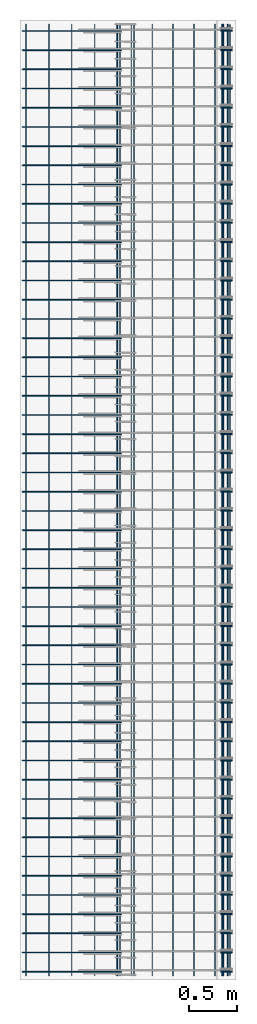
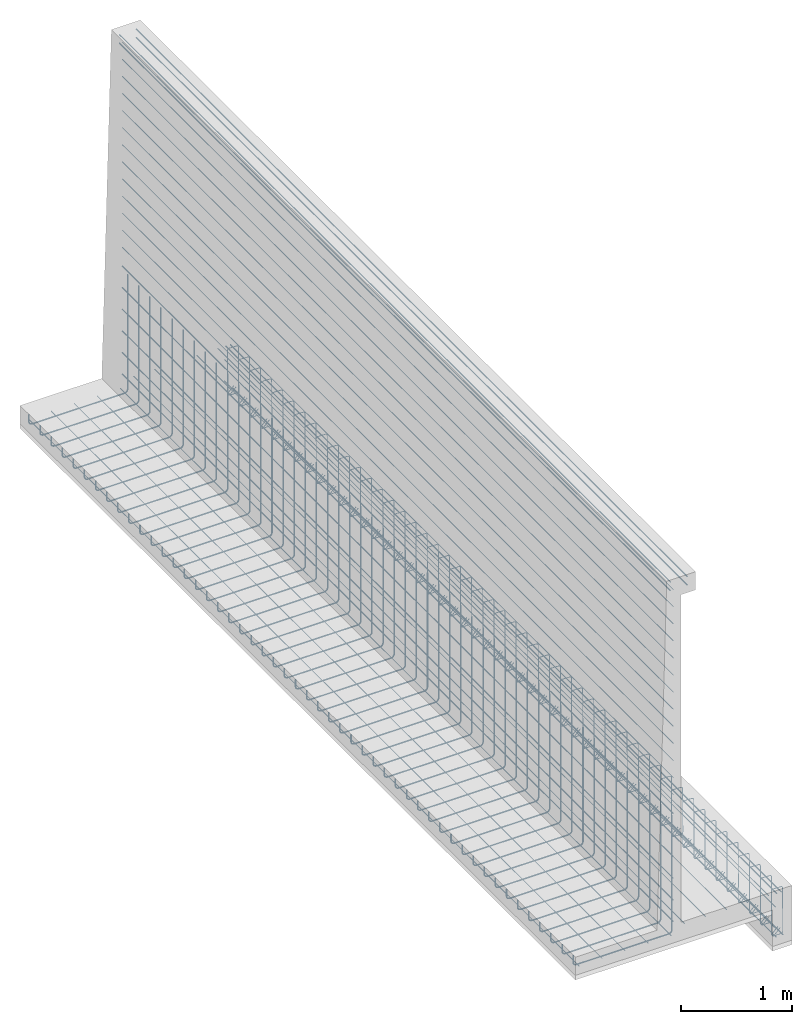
# One storey, part 2 of 4: 5 reinforcing bars.
"""IFC2X3 building model written with IfcOpenShell, lengths in millimetres."""

from ifc_helpers import new_model, entity, si_unit, converted_unit, frame, origin, origin_with_axes, place, context, subcontext, project, spatial, source, transform, mapped, material, element, save


model = new_model("IFC2X3")

# Units and contexts
model_context = context("Model", 3, precision=1e-05, world=origin())
plan_context = context("Plan", 3, precision=1e-05, world=origin())
body_context = subcontext(model_context, "Body", "Model", "MODEL_VIEW")
ifc_project = project(units=[si_unit("LENGTHUNIT", "METRE", prefix="MILLI"), converted_unit("PLANEANGLEUNIT", "DEGREE", entity("IfcPlaneAngleMeasure", 0.0174532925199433), si_unit("PLANEANGLEUNIT", "RADIAN"), dimensions=[0, 0, 0, 0, 0, 0, 0]), si_unit("AREAUNIT", "SQUARE_METRE"), si_unit("VOLUMEUNIT", "CUBIC_METRE")], contexts=[model_context, plan_context])

# Site, building, storey
site_placement = place(None, origin())
site = spatial("IfcSite", under=ifc_project, at=site_placement, Name="Leçon 3 : Ferraillage avancé", CompositionType="ELEMENT")
building_placement = place(site_placement, origin_with_axes())
building = spatial("IfcBuilding", under=site, at=building_placement, Name="01 soutènement", CompositionType="COMPLEX")
storey_placement = place(building_placement, origin_with_axes())
storey = spatial("IfcBuildingStorey", under=building, at=storey_placement, Name="corrigé", CompositionType="ELEMENT")

# Reinforcing bars
ifc_material_1 = material(Name="haute adhérence")
shared_shape_1 = source(origin(), body_context, "Body", "AdvancedSweptSolid", [
    entity("IfcSweptDiskSolid", entity("IfcPolyline", [entity("IfcCartesianPoint", [0.0, 0.0, 0.0]), entity("IfcCartesianPoint", [-56.87697814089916, 0.0, -56.87697814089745]), entity("IfcCartesianPoint", [-58.08204244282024, 0.0, -58.26475208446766]), entity("IfcCartesianPoint", [-59.17595725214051, 0.0, -59.78124254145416]), entity("IfcCartesianPoint", [-60.12346453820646, 0.0, -61.39326700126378]), entity("IfcCartesianPoint", [-60.90399752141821, 0.0, -63.05700947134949]), entity("IfcCartesianPoint", [-61.52852093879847, 0.0, -64.78537321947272]), entity("IfcCartesianPoint", [-61.99840553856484, 0.0, -66.59523547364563]), entity("IfcCartesianPoint", [-62.29721164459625, 0.0, -68.44107073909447]), entity("IfcCartesianPoint", [-62.42640687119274, 0.0, -70.27448424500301]), entity("IfcCartesianPoint", [-62.42640687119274, 9.094947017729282e-13, -71.58223554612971]), entity("IfcCartesianPoint", [-61.93378880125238, 9.094947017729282e-13, -75.12225949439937]), entity("IfcCartesianPoint", [-60.73297037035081, 9.094947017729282e-13, -78.76485298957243]), entity("IfcCartesianPoint", [-58.85890736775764, 9.094947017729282e-13, -82.11124509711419]), entity("IfcCartesianPoint", [-56.56854249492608, 9.094947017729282e-13, -84.85281374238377]), entity("IfcCartesianPoint", [-53.82697384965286, 9.094947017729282e-13, -87.14317861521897]), entity("IfcCartesianPoint", [-50.48058174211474, 9.094947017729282e-13, -89.01724161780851]), entity("IfcCartesianPoint", [-46.83798824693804, 9.094947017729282e-13, -90.21806004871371]), entity("IfcCartesianPoint", [-43.29796429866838, 9.094947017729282e-13, -90.71067811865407]), entity("IfcCartesianPoint", [30.4451505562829, 0.0, -90.71067811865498]), entity("IfcCartesianPoint", [33.98517450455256, 0.003848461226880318, -90.21807508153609]), entity("IfcCartesianPoint", [37.62776799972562, 0.0132295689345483, -89.01729329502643]), entity("IfcCartesianPoint", [40.97416010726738, 0.02787023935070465, -87.14328748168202]), entity("IfcCartesianPoint", [43.71572875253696, 0.04576316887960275, -84.85299250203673]), entity("IfcCartesianPoint", [46.00609362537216, 0.06718102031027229, -82.11150751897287]), entity("IfcCartesianPoint", [47.8801566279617, 0.0933239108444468, -78.76521753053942]), entity("IfcCartesianPoint", [49.0809750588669, 0.1217808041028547, -75.12273519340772]), entity("IfcCartesianPoint", [49.57359312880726, 0.1494363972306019, -71.58281927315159]), entity("IfcCartesianPoint", [49.57359312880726, 3.85060595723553, 402.1668844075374]), entity("IfcCartesianPoint", [49.08145215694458, 3.895832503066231, 405.7060949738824]), entity("IfcCartesianPoint", [47.8818275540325, 3.967125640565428, 409.3476183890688]), entity("IfcCartesianPoint", [46.00962064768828, 4.060125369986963, 412.6929236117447]), entity("IfcCartesianPoint", [43.7214310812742, 4.16325801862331, 415.4336074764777]), entity("IfcCartesianPoint", [40.98240984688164, 4.278967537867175, 417.7231860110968]), entity("IfcCartesianPoint", [37.63913404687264, 4.413005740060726, 419.5965293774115]), entity("IfcCartesianPoint", [33.99981975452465, 4.552359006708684, 420.7968821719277]), entity("IfcCartesianPoint", [30.46275624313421, 4.682529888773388, 421.2893218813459]), entity("IfcCartesianPoint", [-43.31015190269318, 7.317276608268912, 421.289321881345]), entity("IfcCartesianPoint", [-46.84792034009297, 7.443625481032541, 420.7967038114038]), entity("IfcCartesianPoint", [-50.488192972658, 7.573635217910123, 419.5958853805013]), entity("IfcCartesianPoint", [-53.83245294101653, 7.693073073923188, 417.7218223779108]), entity("IfcCartesianPoint", [-56.57227480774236, 7.790923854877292, 415.4314575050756]), entity("IfcCartesianPoint", [-58.86118038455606, 7.872670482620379, 412.6898888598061]), entity("IfcCartesianPoint", [-60.73404933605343, 7.93955865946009, 409.3434967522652]), entity("IfcCartesianPoint", [-61.93410267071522, 7.982417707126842, 405.7009032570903]), entity("IfcCartesianPoint", [-62.42640687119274, 8.00000000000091, 402.1608793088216]), entity("IfcCartesianPoint", [-62.42640687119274, 8.00000000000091, -71.58223554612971]), entity("IfcCartesianPoint", [-61.93378880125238, 8.00000000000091, -75.12225949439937]), entity("IfcCartesianPoint", [-60.73297037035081, 8.00000000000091, -78.76485298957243]), entity("IfcCartesianPoint", [-58.85890736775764, 8.00000000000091, -82.11124509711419]), entity("IfcCartesianPoint", [-56.56854249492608, 8.00000000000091, -84.85281374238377]), entity("IfcCartesianPoint", [-53.82697384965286, 8.00000000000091, -87.14317861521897]), entity("IfcCartesianPoint", [-50.48058174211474, 8.00000000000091, -89.01724161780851]), entity("IfcCartesianPoint", [-46.83798824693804, 8.00000000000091, -90.21806004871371]), entity("IfcCartesianPoint", [-43.29796429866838, 8.00000000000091, -90.71067811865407]), entity("IfcCartesianPoint", [-41.99021299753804, 8.00000000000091, -90.71067811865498]), entity("IfcCartesianPoint", [-40.1567994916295, 8.00000000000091, -90.58148289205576]), entity("IfcCartesianPoint", [-38.31096422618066, 8.00000000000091, -90.28267678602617]), entity("IfcCartesianPoint", [-36.50110197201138, 8.00000000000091, -89.81279218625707]), entity("IfcCartesianPoint", [-34.77273822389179, 8.00000000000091, -89.18826876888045]), entity("IfcCartesianPoint", [-33.10899575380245, 8.00000000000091, -88.40773578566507]), entity("IfcCartesianPoint", [-31.49697129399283, 8.00000000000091, -87.4602284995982]), entity("IfcCartesianPoint", [-29.98048083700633, 8.00000000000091, -86.36631369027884]), entity("IfcCartesianPoint", [-28.59270689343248, 8.00000000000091, -85.16124938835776]), entity("IfcCartesianPoint", [28.28427124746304, 8.0, -28.28427124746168])]), 4.0, None, 0.0, 1.0),
])
reinforcing_bar_1_placement = place(storey_placement, frame((-19074.08486680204, 6810.40333267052, -265.2893218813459), z_axis=(0.0, 0.0, 1.0), x_axis=(1.0, 0.0, 0.0)))
element("IfcReinforcingBar", 1, at=reinforcing_bar_1_placement, inside=storey, material=ifc_material_1, BarRole="NOTDEFINED", CrossSectionArea=0.503, NominalDiameter=8.0, context=body_context, shape_type="MappedRepresentation", body=[
    mapped(shared_shape_1, transform((0.0, 0.0, 0.0), x_axis=(1.0, 0.0, 0.0), y_axis=(0.0, 1.0, 0.0), z_axis=(0.0, 0.0, 1.0))),
    mapped(shared_shape_1, transform((0.0, 200.0, 0.0), x_axis=(1.0, 0.0, 0.0), y_axis=(0.0, 1.0, 0.0), z_axis=(0.0, 0.0, 1.0))),
    mapped(shared_shape_1, transform((0.0, 400.0, 0.0), x_axis=(1.0, 0.0, 0.0), y_axis=(0.0, 1.0, 0.0), z_axis=(0.0, 0.0, 1.0))),
    mapped(shared_shape_1, transform((0.0, 600.0, 0.0), x_axis=(1.0, 0.0, 0.0), y_axis=(0.0, 1.0, 0.0), z_axis=(0.0, 0.0, 1.0))),
    mapped(shared_shape_1, transform((0.0, 800.0, 0.0), x_axis=(1.0, 0.0, 0.0), y_axis=(0.0, 1.0, 0.0), z_axis=(0.0, 0.0, 1.0))),
    mapped(shared_shape_1, transform((0.0, 1000.0, 0.0), x_axis=(1.0, 0.0, 0.0), y_axis=(0.0, 1.0, 0.0), z_axis=(0.0, 0.0, 1.0))),
    mapped(shared_shape_1, transform((0.0, 1200.0, 0.0), x_axis=(1.0, 0.0, 0.0), y_axis=(0.0, 1.0, 0.0), z_axis=(0.0, 0.0, 1.0))),
    mapped(shared_shape_1, transform((0.0, 1400.000000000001, 0.0), x_axis=(1.0, 0.0, 0.0), y_axis=(0.0, 1.0, 0.0), z_axis=(0.0, 0.0, 1.0))),
    mapped(shared_shape_1, transform((0.0, 1600.000000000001, 0.0), x_axis=(1.0, 0.0, 0.0), y_axis=(0.0, 1.0, 0.0), z_axis=(0.0, 0.0, 1.0))),
    mapped(shared_shape_1, transform((0.0, 1800.000000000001, 0.0), x_axis=(1.0, 0.0, 0.0), y_axis=(0.0, 1.0, 0.0), z_axis=(0.0, 0.0, 1.0))),
    mapped(shared_shape_1, transform((0.0, 2000.000000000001, 0.0), x_axis=(1.0, 0.0, 0.0), y_axis=(0.0, 1.0, 0.0), z_axis=(0.0, 0.0, 1.0))),
    mapped(shared_shape_1, transform((0.0, 2200.000000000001, 0.0), x_axis=(1.0, 0.0, 0.0), y_axis=(0.0, 1.0, 0.0), z_axis=(0.0, 0.0, 1.0))),
    mapped(shared_shape_1, transform((0.0, 2400.000000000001, 0.0), x_axis=(1.0, 0.0, 0.0), y_axis=(0.0, 1.0, 0.0), z_axis=(0.0, 0.0, 1.0))),
    mapped(shared_shape_1, transform((0.0, 2600.000000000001, 0.0), x_axis=(1.0, 0.0, 0.0), y_axis=(0.0, 1.0, 0.0), z_axis=(0.0, 0.0, 1.0))),
    mapped(shared_shape_1, transform((0.0, 2800.000000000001, 0.0), x_axis=(1.0, 0.0, 0.0), y_axis=(0.0, 1.0, 0.0), z_axis=(0.0, 0.0, 1.0))),
    mapped(shared_shape_1, transform((0.0, 3000.000000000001, 0.0), x_axis=(1.0, 0.0, 0.0), y_axis=(0.0, 1.0, 0.0), z_axis=(0.0, 0.0, 1.0))),
    mapped(shared_shape_1, transform((0.0, 3200.000000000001, 0.0), x_axis=(1.0, 0.0, 0.0), y_axis=(0.0, 1.0, 0.0), z_axis=(0.0, 0.0, 1.0))),
    mapped(shared_shape_1, transform((0.0, 3400.000000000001, 0.0), x_axis=(1.0, 0.0, 0.0), y_axis=(0.0, 1.0, 0.0), z_axis=(0.0, 0.0, 1.0))),
    mapped(shared_shape_1, transform((0.0, 3600.000000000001, 0.0), x_axis=(1.0, 0.0, 0.0), y_axis=(0.0, 1.0, 0.0), z_axis=(0.0, 0.0, 1.0))),
    mapped(shared_shape_1, transform((0.0, 3800.000000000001, 0.0), x_axis=(1.0, 0.0, 0.0), y_axis=(0.0, 1.0, 0.0), z_axis=(0.0, 0.0, 1.0))),
    mapped(shared_shape_1, transform((0.0, 4000.000000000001, 0.0), x_axis=(1.0, 0.0, 0.0), y_axis=(0.0, 1.0, 0.0), z_axis=(0.0, 0.0, 1.0))),
    mapped(shared_shape_1, transform((0.0, 4200.000000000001, 0.0), x_axis=(1.0, 0.0, 0.0), y_axis=(0.0, 1.0, 0.0), z_axis=(0.0, 0.0, 1.0))),
    mapped(shared_shape_1, transform((0.0, 4400.000000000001, 0.0), x_axis=(1.0, 0.0, 0.0), y_axis=(0.0, 1.0, 0.0), z_axis=(0.0, 0.0, 1.0))),
    mapped(shared_shape_1, transform((0.0, 4600.000000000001, 0.0), x_axis=(1.0, 0.0, 0.0), y_axis=(0.0, 1.0, 0.0), z_axis=(0.0, 0.0, 1.0))),
    mapped(shared_shape_1, transform((0.0, 4800.000000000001, 0.0), x_axis=(1.0, 0.0, 0.0), y_axis=(0.0, 1.0, 0.0), z_axis=(0.0, 0.0, 1.0))),
    mapped(shared_shape_1, transform((0.0, 5000.000000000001, 0.0), x_axis=(1.0, 0.0, 0.0), y_axis=(0.0, 1.0, 0.0), z_axis=(0.0, 0.0, 1.0))),
    mapped(shared_shape_1, transform((0.0, 5200.000000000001, 0.0), x_axis=(1.0, 0.0, 0.0), y_axis=(0.0, 1.0, 0.0), z_axis=(0.0, 0.0, 1.0))),
    mapped(shared_shape_1, transform((0.0, 5400.000000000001, 0.0), x_axis=(1.0, 0.0, 0.0), y_axis=(0.0, 1.0, 0.0), z_axis=(0.0, 0.0, 1.0))),
    mapped(shared_shape_1, transform((0.0, 5600.000000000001, 0.0), x_axis=(1.0, 0.0, 0.0), y_axis=(0.0, 1.0, 0.0), z_axis=(0.0, 0.0, 1.0))),
    mapped(shared_shape_1, transform((0.0, 5800.000000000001, 0.0), x_axis=(1.0, 0.0, 0.0), y_axis=(0.0, 1.0, 0.0), z_axis=(0.0, 0.0, 1.0))),
    mapped(shared_shape_1, transform((0.0, 6000.000000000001, 0.0), x_axis=(1.0, 0.0, 0.0), y_axis=(0.0, 1.0, 0.0), z_axis=(0.0, 0.0, 1.0))),
    mapped(shared_shape_1, transform((0.0, 6200.000000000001, 0.0), x_axis=(1.0, 0.0, 0.0), y_axis=(0.0, 1.0, 0.0), z_axis=(0.0, 0.0, 1.0))),
    mapped(shared_shape_1, transform((0.0, 6400.000000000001, 0.0), x_axis=(1.0, 0.0, 0.0), y_axis=(0.0, 1.0, 0.0), z_axis=(0.0, 0.0, 1.0))),
    mapped(shared_shape_1, transform((0.0, 6600.000000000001, 0.0), x_axis=(1.0, 0.0, 0.0), y_axis=(0.0, 1.0, 0.0), z_axis=(0.0, 0.0, 1.0))),
    mapped(shared_shape_1, transform((0.0, 6800.000000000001, 0.0), x_axis=(1.0, 0.0, 0.0), y_axis=(0.0, 1.0, 0.0), z_axis=(0.0, 0.0, 1.0))),
    mapped(shared_shape_1, transform((0.0, 7000.000000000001, 0.0), x_axis=(1.0, 0.0, 0.0), y_axis=(0.0, 1.0, 0.0), z_axis=(0.0, 0.0, 1.0))),
    mapped(shared_shape_1, transform((0.0, 7200.000000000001, 0.0), x_axis=(1.0, 0.0, 0.0), y_axis=(0.0, 1.0, 0.0), z_axis=(0.0, 0.0, 1.0))),
    mapped(shared_shape_1, transform((0.0, 7400.000000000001, 0.0), x_axis=(1.0, 0.0, 0.0), y_axis=(0.0, 1.0, 0.0), z_axis=(0.0, 0.0, 1.0))),
    mapped(shared_shape_1, transform((0.0, 7600.000000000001, 0.0), x_axis=(1.0, 0.0, 0.0), y_axis=(0.0, 1.0, 0.0), z_axis=(0.0, 0.0, 1.0))),
    mapped(shared_shape_1, transform((0.0, 7800.000000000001, 0.0), x_axis=(1.0, 0.0, 0.0), y_axis=(0.0, 1.0, 0.0), z_axis=(0.0, 0.0, 1.0))),
    mapped(shared_shape_1, transform((0.0, 8000.000000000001, 0.0), x_axis=(1.0, 0.0, 0.0), y_axis=(0.0, 1.0, 0.0), z_axis=(0.0, 0.0, 1.0))),
    mapped(shared_shape_1, transform((0.0, 8200.0, 0.0), x_axis=(1.0, 0.0, 0.0), y_axis=(0.0, 1.0, 0.0), z_axis=(0.0, 0.0, 1.0))),
    mapped(shared_shape_1, transform((0.0, 8400.0, 0.0), x_axis=(1.0, 0.0, 0.0), y_axis=(0.0, 1.0, 0.0), z_axis=(0.0, 0.0, 1.0))),
    mapped(shared_shape_1, transform((0.0, 8600.0, 0.0), x_axis=(1.0, 0.0, 0.0), y_axis=(0.0, 1.0, 0.0), z_axis=(0.0, 0.0, 1.0))),
    mapped(shared_shape_1, transform((0.0, 8800.0, 0.0), x_axis=(1.0, 0.0, 0.0), y_axis=(0.0, 1.0, 0.0), z_axis=(0.0, 0.0, 1.0))),
    mapped(shared_shape_1, transform((0.0, 9000.0, 0.0), x_axis=(1.0, 0.0, 0.0), y_axis=(0.0, 1.0, 0.0), z_axis=(0.0, 0.0, 1.0))),
    mapped(shared_shape_1, transform((0.0, 9200.0, 0.0), x_axis=(1.0, 0.0, 0.0), y_axis=(0.0, 1.0, 0.0), z_axis=(0.0, 0.0, 1.0))),
    mapped(shared_shape_1, transform((0.0, 9400.0, 0.0), x_axis=(1.0, 0.0, 0.0), y_axis=(0.0, 1.0, 0.0), z_axis=(0.0, 0.0, 1.0))),
    mapped(shared_shape_1, transform((0.0, 9600.0, 0.0), x_axis=(1.0, 0.0, 0.0), y_axis=(0.0, 1.0, 0.0), z_axis=(0.0, 0.0, 1.0))),
    mapped(shared_shape_1, transform((0.0, 9800.0, 0.0), x_axis=(1.0, 0.0, 0.0), y_axis=(0.0, 1.0, 0.0), z_axis=(0.0, 0.0, 1.0))),
])
ifc_material_2 = material(Name="haute adhérence")
shared_shape_2 = source(origin(), body_context, "Body", "AdvancedSweptSolid", [
    entity("IfcSweptDiskSolid", entity("IfcPolyline", [entity("IfcCartesianPoint", [0.0, 0.0, 0.0]), entity("IfcCartesianPoint", [-3.637978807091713e-12, 9904.0, 0.0])]), 6.0, None, 0.0, 1.0),
])
reinforcing_bar_2_placement = place(storey_placement, frame((-19116.51127365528, 6773.40333267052, -345.9999999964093), z_axis=(0.0, 0.0, 1.0), x_axis=(1.0, 0.0, 0.0)))
element("IfcReinforcingBar", 2, at=reinforcing_bar_2_placement, inside=storey, material=ifc_material_2, BarRole="NOTDEFINED", CrossSectionArea=0.503, NominalDiameter=12.0, context=body_context, shape_type="MappedRepresentation", body=[
    mapped(shared_shape_2, transform((0.0, 0.0, 0.0), x_axis=(1.0, 0.0, 0.0), y_axis=(0.0, 1.0, 0.0), z_axis=(0.0, 0.0, 1.0))),
    mapped(shared_shape_2, transform((72.0, 0.0, 4.307730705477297e-08), x_axis=(1.0, 0.0, 0.0), y_axis=(0.0, 1.0, 0.0), z_axis=(0.0, 0.0, 1.0))),
])
ifc_material_3 = material(Name="haute adhérence")
shared_shape_3 = source(origin(), body_context, "Body", "AdvancedSweptSolid", [
    entity("IfcSweptDiskSolid", entity("IfcPolyline", [entity("IfcCartesianPoint", [0.0, 0.0, 0.0]), entity("IfcCartesianPoint", [-3.637978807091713e-12, 9919.999999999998, 0.0])]), 6.0, None, 0.0, 1.0),
])
reinforcing_bar_3_placement = place(storey_placement, frame((-20044.51127372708, 6765.403332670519, 3946.000000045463), z_axis=(0.0, 0.0, 1.0), x_axis=(1.0, 0.0, 0.0)))
element("IfcReinforcingBar", 3, at=reinforcing_bar_3_placement, inside=storey, material=ifc_material_3, BarRole="NOTDEFINED", CrossSectionArea=0.503, NominalDiameter=12.0, context=body_context, shape_type="MappedRepresentation", body=[
    mapped(shared_shape_3, transform((0.0, 0.0, 0.0), x_axis=(1.0, 0.0, 0.0), y_axis=(0.0, 1.0, 0.0), z_axis=(0.0, 0.0, 1.0))),
    mapped(shared_shape_3, transform((-173.5062361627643, 0.0, -1.38576069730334e-07), x_axis=(1.0, 0.0, 0.0), y_axis=(0.0, 1.0, 0.0), z_axis=(0.0, 0.0, 1.0))),
    mapped(shared_shape_3, transform((-175.7167624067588, 0.0, -92.00000004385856), x_axis=(1.0, 0.0, 0.0), y_axis=(0.0, 1.0, 0.0), z_axis=(0.0, 0.0, 1.0))),
    mapped(shared_shape_3, transform((7.179914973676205e-08, 0.0, -91.99999999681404), x_axis=(1.0, 0.0, 0.0), y_axis=(0.0, 1.0, 0.0), z_axis=(0.0, 0.0, 1.0))),
    mapped(shared_shape_3, transform((-145.9999999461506, 0.0, -3739.999999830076), x_axis=(1.0, 0.0, 0.0), y_axis=(0.0, 1.0, 0.0), z_axis=(0.0, 0.0, 1.0))),
    mapped(shared_shape_3, transform((-145.9999999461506, 0.0, -3502.399999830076), x_axis=(1.0, 0.0, 0.0), y_axis=(0.0, 1.0, 0.0), z_axis=(0.0, 0.0, 1.0))),
    mapped(shared_shape_3, transform((-145.9999999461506, 0.0, -3264.799999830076), x_axis=(1.0, 0.0, 0.0), y_axis=(0.0, 1.0, 0.0), z_axis=(0.0, 0.0, 1.0))),
    mapped(shared_shape_3, transform((-145.9999999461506, 0.0, -3027.199999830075), x_axis=(1.0, 0.0, 0.0), y_axis=(0.0, 1.0, 0.0), z_axis=(0.0, 0.0, 1.0))),
    mapped(shared_shape_3, transform((-145.9999999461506, 0.0, -2789.599999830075), x_axis=(1.0, 0.0, 0.0), y_axis=(0.0, 1.0, 0.0), z_axis=(0.0, 0.0, 1.0))),
    mapped(shared_shape_3, transform((-145.9999999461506, 0.0, -2551.999999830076), x_axis=(1.0, 0.0, 0.0), y_axis=(0.0, 1.0, 0.0), z_axis=(0.0, 0.0, 1.0))),
    mapped(shared_shape_3, transform((930.4976074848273, 0.0, -3809.404641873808), x_axis=(1.0, 0.0, 0.0), y_axis=(0.0, 1.0, 0.0), z_axis=(0.0, 0.0, 1.0))),
    mapped(shared_shape_3, transform((978.4976074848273, 0.0, -3809.404641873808), x_axis=(1.0, 0.0, 0.0), y_axis=(0.0, 1.0, 0.0), z_axis=(0.0, 0.0, 1.0))),
])
ifc_material_4 = material(Name="haute adhérence")
shared_shape_4 = source(origin(), body_context, "Body", "AdvancedSweptSolid", [
    entity("IfcSweptDiskSolid", entity("IfcPolyline", [entity("IfcCartesianPoint", [0.0, 0.0, 0.0]), entity("IfcCartesianPoint", [-3.637978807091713e-12, 9920.0, 1.222133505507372e-12])]), 4.0, None, 0.0, 1.0),
])
reinforcing_bar_4_placement = place(storey_placement, frame((-20072.51127377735, 6765.403332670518, 142.0), z_axis=(0.0, 0.0, 1.0), x_axis=(1.0, 0.0, 0.0)))
element("IfcReinforcingBar", 4, at=reinforcing_bar_4_placement, inside=storey, material=ifc_material_4, BarRole="NOTDEFINED", CrossSectionArea=0.503, NominalDiameter=8.0, context=body_context, shape_type="MappedRepresentation", body=[
    mapped(shared_shape_4, transform((0.0, 0.0, 0.0), x_axis=(1.0, 0.0, 0.0), y_axis=(0.0, 1.0, 0.0), z_axis=(0.0, 0.0, 1.0))),
    mapped(shared_shape_4, transform((218.5, 0.0, -4.547473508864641e-13), x_axis=(1.0, 0.0, 0.0), y_axis=(0.0, 1.0, 0.0), z_axis=(0.0, 0.0, 1.0))),
    mapped(shared_shape_4, transform((437.0, 0.0, -9.094947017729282e-13), x_axis=(1.0, 0.0, 0.0), y_axis=(0.0, 1.0, 0.0), z_axis=(0.0, 0.0, 1.0))),
    mapped(shared_shape_4, transform((655.5, 0.0, -1.364242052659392e-12), x_axis=(1.0, 0.0, 0.0), y_axis=(0.0, 1.0, 0.0), z_axis=(0.0, 0.0, 1.0))),
    mapped(shared_shape_4, transform((874.0, 0.0, -1.818989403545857e-12), x_axis=(1.0, 0.0, 0.0), y_axis=(0.0, 1.0, 0.0), z_axis=(0.0, 0.0, 1.0))),
    mapped(shared_shape_4, transform((-115.9999998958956, 0.0, 1456.000000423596), x_axis=(1.0, 1.885034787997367e-31, 1.97215226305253e-31), y_axis=(-2.059269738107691e-31, 1.0, -2.465190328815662e-32), z_axis=(-2.958228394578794e-31, -2.465190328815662e-32, 1.0))),
    mapped(shared_shape_4, transform((-115.9999998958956, 0.0, 1643.83333373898), x_axis=(1.0, 1.885034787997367e-31, 1.97215226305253e-31), y_axis=(-2.059269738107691e-31, 1.0, -2.465190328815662e-32), z_axis=(-2.958228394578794e-31, -2.465190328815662e-32, 1.0))),
    mapped(shared_shape_4, transform((-115.9999998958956, 0.0, 1831.666667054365), x_axis=(1.0, 1.885034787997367e-31, 1.97215226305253e-31), y_axis=(-2.059269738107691e-31, 1.0, -2.465190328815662e-32), z_axis=(-2.958228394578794e-31, -2.465190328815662e-32, 1.0))),
    mapped(shared_shape_4, transform((-115.9999998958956, 0.0, 2019.500000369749), x_axis=(1.0, 1.885034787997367e-31, 1.97215226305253e-31), y_axis=(-2.059269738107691e-31, 1.0, -2.465190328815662e-32), z_axis=(-2.958228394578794e-31, -2.465190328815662e-32, 1.0))),
    mapped(shared_shape_4, transform((-115.9999998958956, 0.0, 2207.333333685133), x_axis=(1.0, 1.885034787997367e-31, 1.97215226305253e-31), y_axis=(-2.059269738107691e-31, 1.0, -2.465190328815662e-32), z_axis=(-2.958228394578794e-31, -2.465190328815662e-32, 1.0))),
    mapped(shared_shape_4, transform((-115.9999998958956, 0.0, 2395.166667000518), x_axis=(1.0, 1.885034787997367e-31, 1.97215226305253e-31), y_axis=(-2.059269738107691e-31, 1.0, -2.465190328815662e-32), z_axis=(-2.958228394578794e-31, -2.465190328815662e-32, 1.0))),
    mapped(shared_shape_4, transform((-115.9999998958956, 0.0, 2583.000000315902), x_axis=(1.0, 1.885034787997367e-31, 1.97215226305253e-31), y_axis=(-2.059269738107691e-31, 1.0, -2.465190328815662e-32), z_axis=(-2.958228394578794e-31, -2.465190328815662e-32, 1.0))),
    mapped(shared_shape_4, transform((-115.9999998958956, 0.0, 2770.833333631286), x_axis=(1.0, 1.885034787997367e-31, 1.97215226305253e-31), y_axis=(-2.059269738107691e-31, 1.0, -2.465190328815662e-32), z_axis=(-2.958228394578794e-31, -2.465190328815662e-32, 1.0))),
    mapped(shared_shape_4, transform((-115.9999998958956, 0.0, 2958.66666694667), x_axis=(1.0, 1.885034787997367e-31, 1.97215226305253e-31), y_axis=(-2.059269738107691e-31, 1.0, -2.465190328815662e-32), z_axis=(-2.958228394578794e-31, -2.465190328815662e-32, 1.0))),
    mapped(shared_shape_4, transform((-115.9999998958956, 0.0, 3146.500000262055), x_axis=(1.0, 1.885034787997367e-31, 1.97215226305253e-31), y_axis=(-2.059269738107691e-31, 1.0, -2.465190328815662e-32), z_axis=(-2.958228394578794e-31, -2.465190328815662e-32, 1.0))),
    mapped(shared_shape_4, transform((-115.9999998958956, 0.0, 3334.333333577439), x_axis=(1.0, 1.885034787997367e-31, 1.97215226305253e-31), y_axis=(-2.059269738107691e-31, 1.0, -2.465190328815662e-32), z_axis=(-2.958228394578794e-31, -2.465190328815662e-32, 1.0))),
    mapped(shared_shape_4, transform((-115.9999998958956, 0.0, 3522.166666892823), x_axis=(1.0, 1.885034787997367e-31, 1.97215226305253e-31), y_axis=(-2.059269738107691e-31, 1.0, -2.465190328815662e-32), z_axis=(-2.958228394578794e-31, -2.465190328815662e-32, 1.0))),
    mapped(shared_shape_4, transform((-115.9999998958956, 0.0, 3710.000000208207), x_axis=(1.0, 1.885034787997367e-31, 1.97215226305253e-31), y_axis=(-2.059269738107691e-31, 1.0, -2.465190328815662e-32), z_axis=(-2.958228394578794e-31, -2.465190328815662e-32, 1.0))),
    mapped(shared_shape_4, transform((945.9477799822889, 9920.000000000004, -150.5330419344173), x_axis=(1.0, 7.340554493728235e-16, 7.340554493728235e-16), y_axis=(7.340554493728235e-16, -1.0, 1.224646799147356e-16), z_axis=(7.340554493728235e-16, -1.22464679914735e-16, -1.0))),
    mapped(shared_shape_4, transform((944.0144443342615, 9920.000000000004, -382.5333196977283), x_axis=(1.0, 7.340554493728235e-16, 7.340554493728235e-16), y_axis=(7.340554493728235e-16, -1.0, 1.224646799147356e-16), z_axis=(7.340554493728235e-16, -1.22464679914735e-16, -1.0))),
    mapped(shared_shape_4, transform((-1095.999999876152, 9920.0, -83.99999999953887), x_axis=(1.0, 7.340554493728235e-16, 7.340554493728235e-16), y_axis=(7.340554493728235e-16, -1.0, 1.224646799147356e-16), z_axis=(7.340554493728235e-16, -1.22464679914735e-16, -1.0))),
    mapped(shared_shape_4, transform((-856.9999998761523, 9920.0, -83.9999999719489), x_axis=(1.0, 7.340554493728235e-16, 7.340554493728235e-16), y_axis=(7.340554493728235e-16, -1.0, 1.224646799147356e-16), z_axis=(7.340554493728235e-16, -1.22464679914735e-16, -1.0))),
    mapped(shared_shape_4, transform((-617.9999998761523, 9920.0, -83.99999994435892), x_axis=(1.0, 7.340554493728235e-16, 7.340554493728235e-16), y_axis=(7.340554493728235e-16, -1.0, 1.224646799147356e-16), z_axis=(7.340554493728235e-16, -1.22464679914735e-16, -1.0))),
    mapped(shared_shape_4, transform((-378.9999998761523, 9920.0, -83.99999991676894), x_axis=(1.0, 7.340554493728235e-16, 7.340554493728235e-16), y_axis=(7.340554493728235e-16, -1.0, 1.224646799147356e-16), z_axis=(7.340554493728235e-16, -1.22464679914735e-16, -1.0))),
    mapped(shared_shape_4, transform((-139.9999998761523, 9920.0, -83.99999988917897), x_axis=(1.0, 7.340554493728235e-16, 7.340554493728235e-16), y_axis=(7.340554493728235e-16, -1.0, 1.224646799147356e-16), z_axis=(7.340554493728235e-16, -1.22464679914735e-16, -1.0))),
])
ifc_material_5 = material(Name="haute adhérence")
shared_shape_5 = source(origin(), body_context, "Body", "AdvancedSweptSolid", [
    entity("IfcSweptDiskSolid", entity("IfcPolyline", [entity("IfcCartesianPoint", [0.0, 0.0, 0.0]), entity("IfcCartesianPoint", [0.0, 0.0, -79.52522549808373]), entity("IfcCartesianPoint", [0.8620816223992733, 0.0, -85.72026740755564]), entity("IfcCartesianPoint", [2.963513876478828, 0.0, -92.0948060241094]), entity("IfcCartesianPoint", [6.243124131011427, 0.0, -97.95099221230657]), entity("IfcCartesianPoint", [10.25126265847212, 0.0, -102.7487373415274]), entity("IfcCartesianPoint", [15.04900778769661, 0.0, -106.7568758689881]), entity("IfcCartesianPoint", [20.90519397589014, 0.0, -110.0364861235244]), entity("IfcCartesianPoint", [27.27973259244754, 0.0, -112.1379183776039]), entity("IfcCartesianPoint", [33.47477450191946, 0.0, -112.9999999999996]), entity("IfcCartesianPoint", [992.5252254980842, 0.0, -112.9999999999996]), entity("IfcCartesianPoint", [998.7202674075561, 0.0, -112.1379183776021]), entity("IfcCartesianPoint", [1005.09480602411, 0.0, -110.0364861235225]), entity("IfcCartesianPoint", [1010.950992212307, 0.0, -106.756875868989]), entity("IfcCartesianPoint", [1015.748737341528, 0.0, -102.7487373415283]), entity("IfcCartesianPoint", [1019.756875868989, 0.0, -97.95099221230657]), entity("IfcCartesianPoint", [1023.036486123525, 0.0, -92.09480602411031]), entity("IfcCartesianPoint", [1025.137918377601, 0.0, -85.72026740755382]), entity("IfcCartesianPoint", [1026.0, 0.0, -79.52522549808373]), entity("IfcCartesianPoint", [1026.0, 0.0, 1180.0])]), 7.0, None, 0.0, 1.0),
])
reinforcing_bar_5_placement = place(storey_placement, frame((-21203.51127367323, 6811.403332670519, 159.9999999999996), z_axis=(0.0, 0.0, 1.0), x_axis=(1.0, 0.0, 0.0)))
element("IfcReinforcingBar", 5, at=reinforcing_bar_5_placement, inside=storey, material=ifc_material_5, BarRole="NOTDEFINED", CrossSectionArea=0.503, NominalDiameter=14.0, context=body_context, shape_type="MappedRepresentation", body=[
    mapped(shared_shape_5, transform((0.0, 0.0, 0.0), x_axis=(1.0, 0.0, 0.0), y_axis=(0.0, 1.0, 0.0), z_axis=(0.0, 0.0, 1.0))),
    mapped(shared_shape_5, transform((0.0, 200.0, 0.0), x_axis=(1.0, 0.0, 0.0), y_axis=(0.0, 1.0, 0.0), z_axis=(0.0, 0.0, 1.0))),
    mapped(shared_shape_5, transform((0.0, 400.0, 0.0), x_axis=(1.0, 0.0, 0.0), y_axis=(0.0, 1.0, 0.0), z_axis=(0.0, 0.0, 1.0))),
    mapped(shared_shape_5, transform((0.0, 600.0, 0.0), x_axis=(1.0, 0.0, 0.0), y_axis=(0.0, 1.0, 0.0), z_axis=(0.0, 0.0, 1.0))),
    mapped(shared_shape_5, transform((0.0, 800.0, 0.0), x_axis=(1.0, 0.0, 0.0), y_axis=(0.0, 1.0, 0.0), z_axis=(0.0, 0.0, 1.0))),
    mapped(shared_shape_5, transform((0.0, 1000.0, 0.0), x_axis=(1.0, 0.0, 0.0), y_axis=(0.0, 1.0, 0.0), z_axis=(0.0, 0.0, 1.0))),
    mapped(shared_shape_5, transform((0.0, 1200.0, 0.0), x_axis=(1.0, 0.0, 0.0), y_axis=(0.0, 1.0, 0.0), z_axis=(0.0, 0.0, 1.0))),
    mapped(shared_shape_5, transform((0.0, 1400.0, 0.0), x_axis=(1.0, 0.0, 0.0), y_axis=(0.0, 1.0, 0.0), z_axis=(0.0, 0.0, 1.0))),
    mapped(shared_shape_5, transform((0.0, 1600.0, 0.0), x_axis=(1.0, 0.0, 0.0), y_axis=(0.0, 1.0, 0.0), z_axis=(0.0, 0.0, 1.0))),
    mapped(shared_shape_5, transform((0.0, 1800.0, 0.0), x_axis=(1.0, 0.0, 0.0), y_axis=(0.0, 1.0, 0.0), z_axis=(0.0, 0.0, 1.0))),
    mapped(shared_shape_5, transform((0.0, 2000.0, 0.0), x_axis=(1.0, 0.0, 0.0), y_axis=(0.0, 1.0, 0.0), z_axis=(0.0, 0.0, 1.0))),
    mapped(shared_shape_5, transform((0.0, 2200.0, 0.0), x_axis=(1.0, 0.0, 0.0), y_axis=(0.0, 1.0, 0.0), z_axis=(0.0, 0.0, 1.0))),
    mapped(shared_shape_5, transform((0.0, 2400.0, 0.0), x_axis=(1.0, 0.0, 0.0), y_axis=(0.0, 1.0, 0.0), z_axis=(0.0, 0.0, 1.0))),
    mapped(shared_shape_5, transform((0.0, 2600.0, 0.0), x_axis=(1.0, 0.0, 0.0), y_axis=(0.0, 1.0, 0.0), z_axis=(0.0, 0.0, 1.0))),
    mapped(shared_shape_5, transform((0.0, 2800.0, 0.0), x_axis=(1.0, 0.0, 0.0), y_axis=(0.0, 1.0, 0.0), z_axis=(0.0, 0.0, 1.0))),
    mapped(shared_shape_5, transform((0.0, 3000.0, 0.0), x_axis=(1.0, 0.0, 0.0), y_axis=(0.0, 1.0, 0.0), z_axis=(0.0, 0.0, 1.0))),
    mapped(shared_shape_5, transform((0.0, 3200.0, 0.0), x_axis=(1.0, 0.0, 0.0), y_axis=(0.0, 1.0, 0.0), z_axis=(0.0, 0.0, 1.0))),
    mapped(shared_shape_5, transform((0.0, 3400.0, 0.0), x_axis=(1.0, 0.0, 0.0), y_axis=(0.0, 1.0, 0.0), z_axis=(0.0, 0.0, 1.0))),
    mapped(shared_shape_5, transform((0.0, 3600.0, 0.0), x_axis=(1.0, 0.0, 0.0), y_axis=(0.0, 1.0, 0.0), z_axis=(0.0, 0.0, 1.0))),
    mapped(shared_shape_5, transform((0.0, 3800.0, 0.0), x_axis=(1.0, 0.0, 0.0), y_axis=(0.0, 1.0, 0.0), z_axis=(0.0, 0.0, 1.0))),
    mapped(shared_shape_5, transform((0.0, 4000.0, 0.0), x_axis=(1.0, 0.0, 0.0), y_axis=(0.0, 1.0, 0.0), z_axis=(0.0, 0.0, 1.0))),
    mapped(shared_shape_5, transform((0.0, 4200.0, 0.0), x_axis=(1.0, 0.0, 0.0), y_axis=(0.0, 1.0, 0.0), z_axis=(0.0, 0.0, 1.0))),
    mapped(shared_shape_5, transform((0.0, 4400.0, 0.0), x_axis=(1.0, 0.0, 0.0), y_axis=(0.0, 1.0, 0.0), z_axis=(0.0, 0.0, 1.0))),
    mapped(shared_shape_5, transform((0.0, 4600.0, 0.0), x_axis=(1.0, 0.0, 0.0), y_axis=(0.0, 1.0, 0.0), z_axis=(0.0, 0.0, 1.0))),
    mapped(shared_shape_5, transform((0.0, 4800.0, 0.0), x_axis=(1.0, 0.0, 0.0), y_axis=(0.0, 1.0, 0.0), z_axis=(0.0, 0.0, 1.0))),
    mapped(shared_shape_5, transform((0.0, 5000.0, 0.0), x_axis=(1.0, 0.0, 0.0), y_axis=(0.0, 1.0, 0.0), z_axis=(0.0, 0.0, 1.0))),
    mapped(shared_shape_5, transform((0.0, 5200.0, 0.0), x_axis=(1.0, 0.0, 0.0), y_axis=(0.0, 1.0, 0.0), z_axis=(0.0, 0.0, 1.0))),
    mapped(shared_shape_5, transform((0.0, 5400.0, 0.0), x_axis=(1.0, 0.0, 0.0), y_axis=(0.0, 1.0, 0.0), z_axis=(0.0, 0.0, 1.0))),
    mapped(shared_shape_5, transform((0.0, 5600.0, 0.0), x_axis=(1.0, 0.0, 0.0), y_axis=(0.0, 1.0, 0.0), z_axis=(0.0, 0.0, 1.0))),
    mapped(shared_shape_5, transform((0.0, 5800.0, 0.0), x_axis=(1.0, 0.0, 0.0), y_axis=(0.0, 1.0, 0.0), z_axis=(0.0, 0.0, 1.0))),
    mapped(shared_shape_5, transform((0.0, 6000.0, 0.0), x_axis=(1.0, 0.0, 0.0), y_axis=(0.0, 1.0, 0.0), z_axis=(0.0, 0.0, 1.0))),
    mapped(shared_shape_5, transform((0.0, 6200.0, 0.0), x_axis=(1.0, 0.0, 0.0), y_axis=(0.0, 1.0, 0.0), z_axis=(0.0, 0.0, 1.0))),
    mapped(shared_shape_5, transform((0.0, 6400.0, 0.0), x_axis=(1.0, 0.0, 0.0), y_axis=(0.0, 1.0, 0.0), z_axis=(0.0, 0.0, 1.0))),
    mapped(shared_shape_5, transform((0.0, 6600.0, 0.0), x_axis=(1.0, 0.0, 0.0), y_axis=(0.0, 1.0, 0.0), z_axis=(0.0, 0.0, 1.0))),
    mapped(shared_shape_5, transform((0.0, 6800.0, 0.0), x_axis=(1.0, 0.0, 0.0), y_axis=(0.0, 1.0, 0.0), z_axis=(0.0, 0.0, 1.0))),
    mapped(shared_shape_5, transform((0.0, 7000.0, 0.0), x_axis=(1.0, 0.0, 0.0), y_axis=(0.0, 1.0, 0.0), z_axis=(0.0, 0.0, 1.0))),
    mapped(shared_shape_5, transform((0.0, 7200.0, 0.0), x_axis=(1.0, 0.0, 0.0), y_axis=(0.0, 1.0, 0.0), z_axis=(0.0, 0.0, 1.0))),
    mapped(shared_shape_5, transform((0.0, 7400.0, 0.0), x_axis=(1.0, 0.0, 0.0), y_axis=(0.0, 1.0, 0.0), z_axis=(0.0, 0.0, 1.0))),
    mapped(shared_shape_5, transform((0.0, 7600.0, 0.0), x_axis=(1.0, 0.0, 0.0), y_axis=(0.0, 1.0, 0.0), z_axis=(0.0, 0.0, 1.0))),
    mapped(shared_shape_5, transform((0.0, 7800.0, 0.0), x_axis=(1.0, 0.0, 0.0), y_axis=(0.0, 1.0, 0.0), z_axis=(0.0, 0.0, 1.0))),
    mapped(shared_shape_5, transform((0.0, 8000.0, 0.0), x_axis=(1.0, 0.0, 0.0), y_axis=(0.0, 1.0, 0.0), z_axis=(0.0, 0.0, 1.0))),
    mapped(shared_shape_5, transform((0.0, 8200.0, 0.0), x_axis=(1.0, 0.0, 0.0), y_axis=(0.0, 1.0, 0.0), z_axis=(0.0, 0.0, 1.0))),
    mapped(shared_shape_5, transform((0.0, 8400.0, 0.0), x_axis=(1.0, 0.0, 0.0), y_axis=(0.0, 1.0, 0.0), z_axis=(0.0, 0.0, 1.0))),
    mapped(shared_shape_5, transform((0.0, 8600.0, 0.0), x_axis=(1.0, 0.0, 0.0), y_axis=(0.0, 1.0, 0.0), z_axis=(0.0, 0.0, 1.0))),
    mapped(shared_shape_5, transform((0.0, 8800.0, 0.0), x_axis=(1.0, 0.0, 0.0), y_axis=(0.0, 1.0, 0.0), z_axis=(0.0, 0.0, 1.0))),
    mapped(shared_shape_5, transform((0.0, 9000.0, 0.0), x_axis=(1.0, 0.0, 0.0), y_axis=(0.0, 1.0, 0.0), z_axis=(0.0, 0.0, 1.0))),
    mapped(shared_shape_5, transform((0.0, 9200.0, 0.0), x_axis=(1.0, 0.0, 0.0), y_axis=(0.0, 1.0, 0.0), z_axis=(0.0, 0.0, 1.0))),
    mapped(shared_shape_5, transform((0.0, 9400.0, 0.0), x_axis=(1.0, 0.0, 0.0), y_axis=(0.0, 1.0, 0.0), z_axis=(0.0, 0.0, 1.0))),
    mapped(shared_shape_5, transform((0.0, 9599.999999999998, 0.0), x_axis=(1.0, 0.0, 0.0), y_axis=(0.0, 1.0, 0.0), z_axis=(0.0, 0.0, 1.0))),
    mapped(shared_shape_5, transform((0.0, 9799.999999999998, 0.0), x_axis=(1.0, 0.0, 0.0), y_axis=(0.0, 1.0, 0.0), z_axis=(0.0, 0.0, 1.0))),
])

save(model, "model.ifc")
